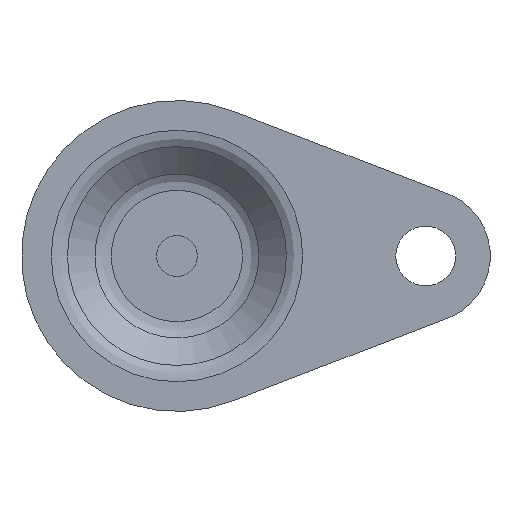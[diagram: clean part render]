
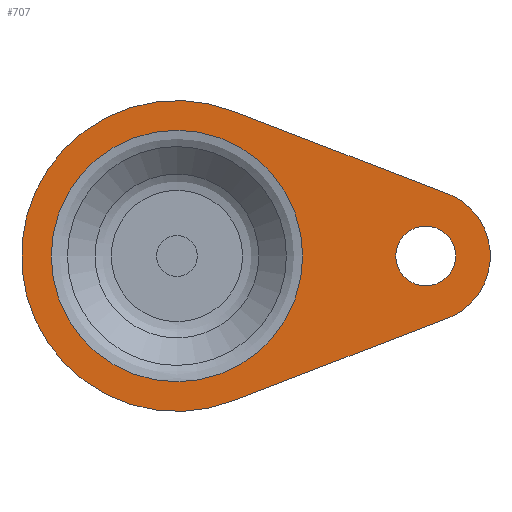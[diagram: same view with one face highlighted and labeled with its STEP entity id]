
A CAD part, left-side view. The second image highlights one B-rep face of the part: STEP entity #707.
In plain terms, the highlighted planar face has unit normal (-1, 0, 0).
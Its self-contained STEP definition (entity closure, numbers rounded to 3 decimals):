
#458=CARTESIAN_POINT('',(-533.136,-488.109,-26.284));
#459=VERTEX_POINT('',#458);
#467=CARTESIAN_POINT('',(-533.136,-488.109,26.284));
#468=VERTEX_POINT('',#467);
#469=CARTESIAN_POINT('',(-533.136,-488.109,0.0));
#470=DIRECTION('',(-1.0,0.0,0.0));
#471=DIRECTION('',(0.0,0.0,-1.0));
#472=AXIS2_PLACEMENT_3D('',#469,#470,#471);
#473=CIRCLE('',#472,26.284);
#474=EDGE_CURVE('',#459,#468,#473,.T.);
#476=CARTESIAN_POINT('',(-533.136,-488.109,0.0));
#477=DIRECTION('',(-1.0,0.0,0.0));
#478=DIRECTION('',(0.0,0.0,-1.0));
#479=AXIS2_PLACEMENT_3D('',#476,#477,#478);
#480=CIRCLE('',#479,26.284);
#481=EDGE_CURVE('',#468,#459,#480,.T.);
#494=CARTESIAN_POINT('',(-533.136,-543.341,13.494));
#495=VERTEX_POINT('',#494);
#512=CARTESIAN_POINT('',(-533.136,-500.009,30.243));
#513=VERTEX_POINT('',#512);
#520=CARTESIAN_POINT('',(-533.136,-543.341,13.494));
#521=DIRECTION('',(0.0,0.933,0.361));
#522=VECTOR('',#521,46.457);
#523=LINE('',#520,#522);
#524=EDGE_CURVE('',#495,#513,#523,.T.);
#534=CARTESIAN_POINT('',(-533.136,-500.009,-30.243));
#535=VERTEX_POINT('',#534);
#536=CARTESIAN_POINT('',(-533.136,-543.341,-13.494));
#537=VERTEX_POINT('',#536);
#538=CARTESIAN_POINT('',(-533.136,-500.009,-30.243));
#539=DIRECTION('',(0.0,-0.933,0.361));
#540=VECTOR('',#539,46.457);
#541=LINE('',#538,#540);
#542=EDGE_CURVE('',#535,#537,#541,.T.);
#583=CARTESIAN_POINT('',(-533.136,-539.609,0.0));
#584=DIRECTION('',(-1.0,0.0,0.0));
#585=DIRECTION('',(0.0,-0.267,-0.964));
#586=AXIS2_PLACEMENT_3D('',#583,#584,#585);
#587=CIRCLE('',#586,14.0);
#588=EDGE_CURVE('',#537,#495,#587,.T.);
#598=CARTESIAN_POINT('',(-533.136,-546.359,0.0));
#599=VERTEX_POINT('',#598);
#625=CARTESIAN_POINT('',(-533.136,-533.859,0.0));
#626=VERTEX_POINT('',#625);
#627=CARTESIAN_POINT('',(-533.136,-540.109,0.0));
#628=DIRECTION('',(-1.0,0.0,0.0));
#629=DIRECTION('',(0.0,-1.0,0.0));
#630=AXIS2_PLACEMENT_3D('',#627,#628,#629);
#631=CIRCLE('',#630,6.25);
#632=EDGE_CURVE('',#599,#626,#631,.T.);
#634=CARTESIAN_POINT('',(-533.136,-540.109,0.0));
#635=DIRECTION('',(-1.0,0.0,0.0));
#636=DIRECTION('',(0.0,-1.0,0.0));
#637=AXIS2_PLACEMENT_3D('',#634,#635,#636);
#638=CIRCLE('',#637,6.25);
#639=EDGE_CURVE('',#626,#599,#638,.T.);
#657=CARTESIAN_POINT('',(-533.136,-488.109,0.0));
#658=DIRECTION('',(1.0,0.0,0.0));
#659=DIRECTION('',(0.0,0.0,-1.0));
#660=AXIS2_PLACEMENT_3D('',#657,#658,#659);
#661=CIRCLE('',#660,32.5);
#662=EDGE_CURVE('',#535,#513,#661,.T.);
#688=CARTESIAN_POINT('',(-533.136,-553.614,-32.504));
#689=DIRECTION('',(1.0,0.0,0.0));
#690=DIRECTION('',(0.0,1.0,0.0));
#691=AXIS2_PLACEMENT_3D('',#688,#689,#690);
#692=PLANE('',#691);
#693=ORIENTED_EDGE('',*,*,#542,.T.);
#694=ORIENTED_EDGE('',*,*,#588,.T.);
#695=ORIENTED_EDGE('',*,*,#524,.T.);
#696=ORIENTED_EDGE('',*,*,#662,.F.);
#697=EDGE_LOOP('',(#693,#694,#695,#696));
#698=FACE_OUTER_BOUND('',#697,.T.);
#699=ORIENTED_EDGE('',*,*,#481,.F.);
#700=ORIENTED_EDGE('',*,*,#474,.F.);
#701=EDGE_LOOP('',(#699,#700));
#702=FACE_BOUND('',#701,.T.);
#703=ORIENTED_EDGE('',*,*,#639,.F.);
#704=ORIENTED_EDGE('',*,*,#632,.F.);
#705=EDGE_LOOP('',(#703,#704));
#706=FACE_BOUND('',#705,.T.);
#707=ADVANCED_FACE('',(#698,#702,#706),#692,.F.);
